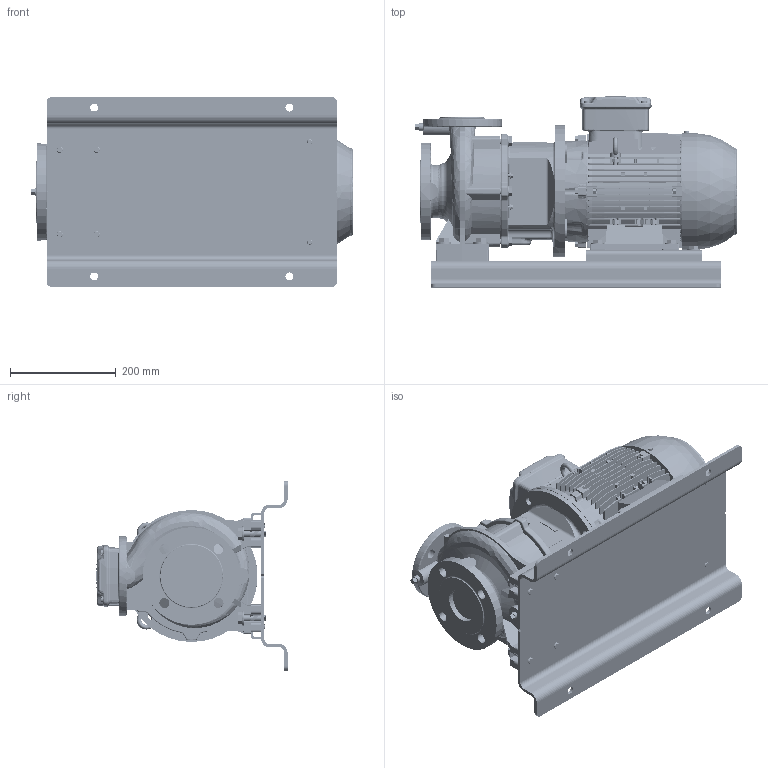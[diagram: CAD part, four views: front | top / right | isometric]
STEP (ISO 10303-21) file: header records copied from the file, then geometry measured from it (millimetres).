
FILE_DESCRIPTION (( 'STEP AP214' ), '1' );
FILE_NAME ('GSD2 40-125_4.0_(112M)_W21_BP.STEP', '2024-03-26T23:45:29', ( '' ), ( '' ), 'SwSTEP 2.0', 'SolidWorks 2019', '' );
FILE_SCHEMA (( 'AUTOMOTIVE_DESIGN' ));
Length unit declared in the file: millimetre
Products named in the file (10): Parametric Flat Washer_M12; 112M ALIE3_W21T_B35; Parametric bolt_SFT-A253B; GSD2  40-125_4.0_(112M)_W21_BP; Parametric bolt_SFT-A305B; N2S3 GSDA-234 F1-1832900-00; 140 x 20 - 271472024; Parametric Flat Washer_M10; CGS11-5301_2_3_4_5_CGS11-5301; 40-125-112M
Assembly tree (27 placements, depth 2):
  GSD2  40-125_4.0_(112M)_W21_BP
    40-125-112M
    112M ALIE3_W21T_B35
    CGS11-5301_2_3_4_5_CGS11-5301  x2
    N2S3 GSDA-234 F1-1832900-00
    140 x 20 - 271472024  x2
    Parametric bolt_SFT-A253B  x6
    Parametric bolt_SFT-A305B  x4
    Parametric Flat Washer_M12  x4
    Parametric Flat Washer_M10  x6
Bounding box: 609.3 x 362 x 360 mm (x, y, z)
Volume: 19022784.4 mm3; surface area: 1919257.1 mm2
Topology: 50 solids, 52 shells, 5207 faces, 13987 edges, 9154 vertices
Faces by surface type: plane 2710, cylinder 1253, bspline 492, torus 378, cone 363, sphere 11
Entity records: 215445 total; most frequent: CARTESIAN_POINT 91352, ORIENTED_EDGE 25392, DIRECTION 20639, EDGE_CURVE 12696, VERTEX_POINT 8316, LINE 7147, VECTOR 7147, AXIS2_PLACEMENT_3D 6746
